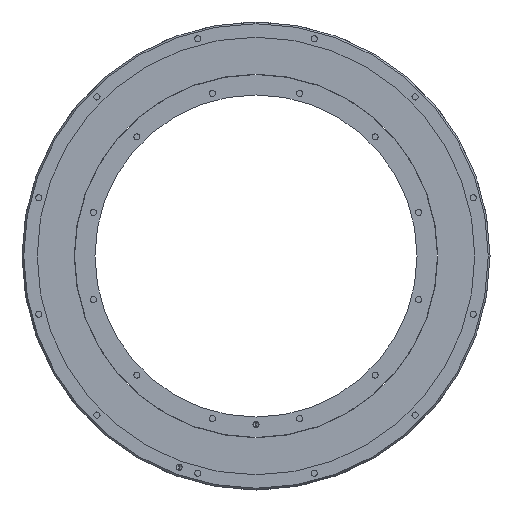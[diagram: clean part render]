
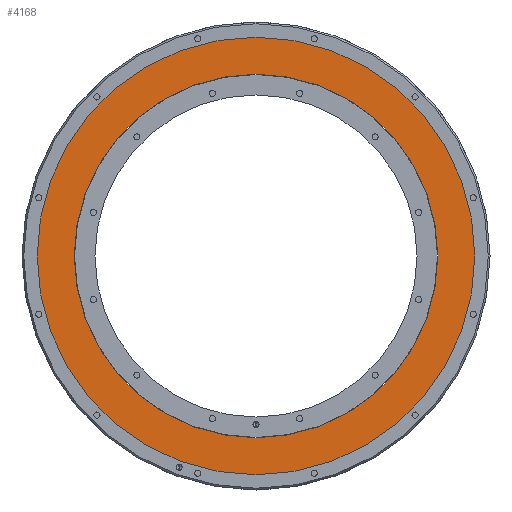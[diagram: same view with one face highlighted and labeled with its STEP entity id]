
A CAD part, front view. The second image highlights one B-rep face of the part: STEP entity #4168.
In plain terms, the highlighted planar face has unit normal (0, -1, 0).
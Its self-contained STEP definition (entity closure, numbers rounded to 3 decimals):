
#143 = DIRECTION ( 'NONE',  ( 0., -1., 0. ) ) ;
#206 = CARTESIAN_POINT ( 'NONE',  ( 0., 1., 0. ) ) ;
#266 = VERTEX_POINT ( 'NONE', #6911 ) ;
#391 = ORIENTED_EDGE ( 'NONE', *, *, #6866, .T. ) ;
#585 = CARTESIAN_POINT ( 'NONE',  ( 0., 1., -149.5 ) ) ;
#670 = CARTESIAN_POINT ( 'NONE',  ( 0., 1., 0. ) ) ;
#946 = EDGE_CURVE ( 'NONE', #2990, #5702, #5626, .T. ) ;
#1189 = DIRECTION ( 'NONE',  ( 0., 0., -1. ) ) ;
#1313 = AXIS2_PLACEMENT_3D ( 'NONE', #5732, #1513, #6290 ) ;
#1368 = DIRECTION ( 'NONE',  ( 0., -1., 0. ) ) ;
#1476 = FACE_OUTER_BOUND ( 'NONE', #4329, .T. ) ;
#1495 = CARTESIAN_POINT ( 'NONE',  ( 149.5, 1., 0. ) ) ;
#1513 = DIRECTION ( 'NONE',  ( 0., -1., 0. ) ) ;
#1774 = DIRECTION ( 'NONE',  ( 0., 0., -1. ) ) ;
#2055 = AXIS2_PLACEMENT_3D ( 'NONE', #5050, #1368, #2919 ) ;
#2316 = AXIS2_PLACEMENT_3D ( 'NONE', #670, #3287, #1189 ) ;
#2352 = ORIENTED_EDGE ( 'NONE', *, *, #6651, .T. ) ;
#2661 = EDGE_LOOP ( 'NONE', ( #4011, #4998 ) ) ;
#2676 = CIRCLE ( 'NONE', #2316, 180. ) ;
#2722 = FACE_BOUND ( 'NONE', #2661, .T. ) ;
#2919 = DIRECTION ( 'NONE',  ( 0., 0., -1. ) ) ;
#2972 = AXIS2_PLACEMENT_3D ( 'NONE', #1495, #5815, #3063 ) ;
#2990 = VERTEX_POINT ( 'NONE', #585 ) ;
#3063 = DIRECTION ( 'NONE',  ( 0., 0., -1. ) ) ;
#3258 = CARTESIAN_POINT ( 'NONE',  ( 0., 1., 180. ) ) ;
#3287 = DIRECTION ( 'NONE',  ( 0., -1., 0. ) ) ;
#3324 = VERTEX_POINT ( 'NONE', #3258 ) ;
#3477 = CIRCLE ( 'NONE', #1313, 180. ) ;
#4011 = ORIENTED_EDGE ( 'NONE', *, *, #946, .F. ) ;
#4168 = ADVANCED_FACE ( 'NONE', ( #1476, #2722 ), #5267, .T. ) ;
#4329 = EDGE_LOOP ( 'NONE', ( #391, #2352 ) ) ;
#4441 = CIRCLE ( 'NONE', #5383, 149.5 ) ;
#4998 = ORIENTED_EDGE ( 'NONE', *, *, #5071, .F. ) ;
#5050 = CARTESIAN_POINT ( 'NONE',  ( 0., 1., 0. ) ) ;
#5071 = EDGE_CURVE ( 'NONE', #5702, #2990, #4441, .T. ) ;
#5193 = CARTESIAN_POINT ( 'NONE',  ( 0., 1., 149.5 ) ) ;
#5267 = PLANE ( 'NONE',  #2972 ) ;
#5383 = AXIS2_PLACEMENT_3D ( 'NONE', #206, #143, #1774 ) ;
#5626 = CIRCLE ( 'NONE', #2055, 149.5 ) ;
#5702 = VERTEX_POINT ( 'NONE', #5193 ) ;
#5732 = CARTESIAN_POINT ( 'NONE',  ( 0., 1., 0. ) ) ;
#5815 = DIRECTION ( 'NONE',  ( 0., -1., 0. ) ) ;
#6290 = DIRECTION ( 'NONE',  ( 0., 0., -1. ) ) ;
#6651 = EDGE_CURVE ( 'NONE', #3324, #266, #2676, .T. ) ;
#6866 = EDGE_CURVE ( 'NONE', #266, #3324, #3477, .T. ) ;
#6911 = CARTESIAN_POINT ( 'NONE',  ( 0., 1., -180. ) ) ;
